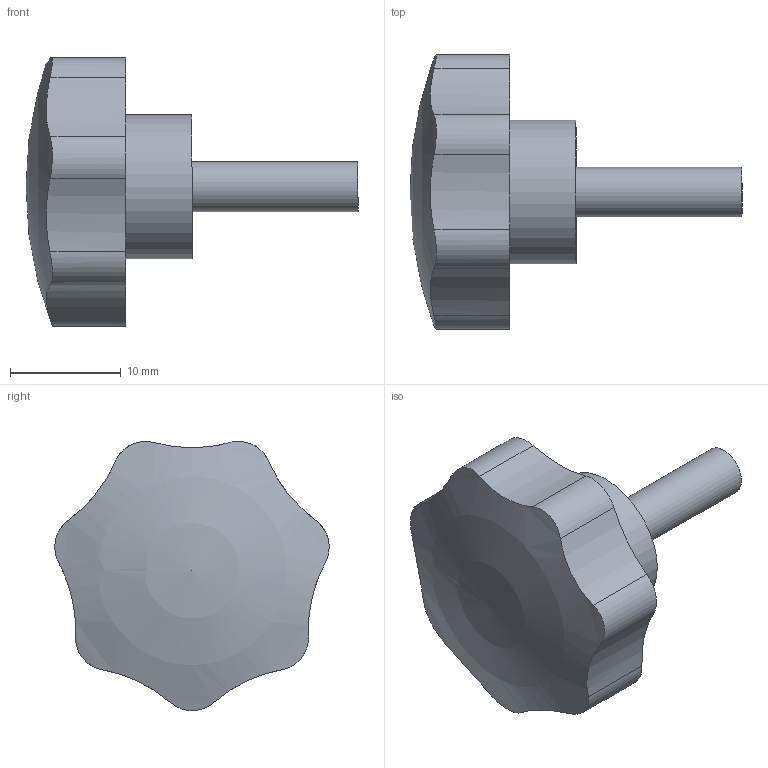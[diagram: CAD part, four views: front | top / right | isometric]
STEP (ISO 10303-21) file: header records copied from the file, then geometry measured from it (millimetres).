
FILE_DESCRIPTION(/* description */ ('STEP AP242 Edition 2','CAx-IF Rec.Pracs.---Representation and Presentation of Product Manufacturing Information (PMI)---4.0---2014-10-13','CAx-IF Rec.Pracs.---3D Tessellated Geometry---0.4---2014-09-14','2;1','CAx-IF Rec.Pracs.---User Defined Attributes---1.5---2016-08-15'),/* implementation_level */ '2;1');
FILE_NAME(/* name */ 'Final Build - pen Knob',/* time_stamp */ '2026-08-31T23:26:25Z',/* author */ (''),/* organization */ (''),/* preprocessor_version */ 'ST-DEVELOPER v20',/* originating_system */ 'ONSHAPE BY PTC INC, 1.220',/* authorisation */ ' ');
FILE_SCHEMA (('AP242_MANAGED_MODEL_BASED_3D_ENGINEERING_MIM_LF { 1 0 10303 442 3 1 4 }'));
Length unit declared in the file: metre
Products named in the file (1): pen Knob
Bounding box: 30 x 24.8 x 24.31 mm (x, y, z)
Volume: 4432.8 mm3; surface area: 2031.6 mm2
Topology: 1 solids, 1 shells, 22 faces, 54 edges, 36 vertices
Faces by surface type: cylinder 17, plane 4, sphere 1
Full cylindrical faces by diameter (mm): 4.5 x1, 7 x1, 13 x1
Entity records: 663 total; most frequent: CARTESIAN_POINT 154, DIRECTION 100, ORIENTED_EDGE 96, EDGE_CURVE 48, AXIS2_PLACEMENT_3D 43, VERTEX_POINT 34, EDGE_LOOP 28, FACE_BOUND 28
